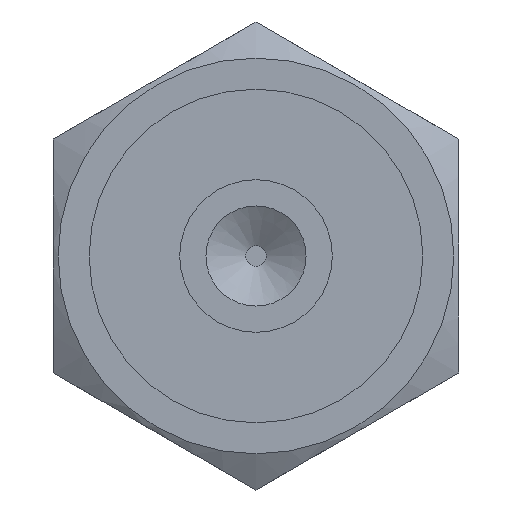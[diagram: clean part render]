
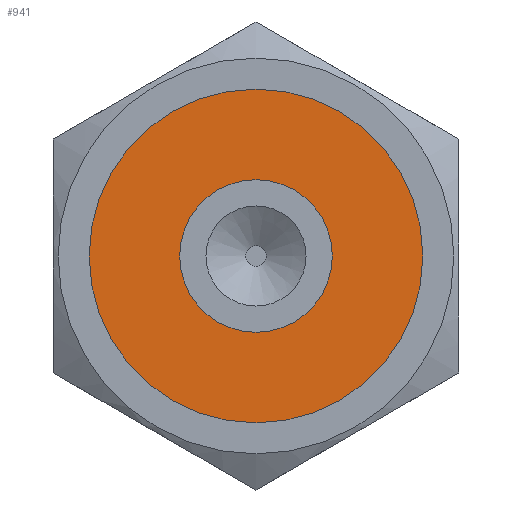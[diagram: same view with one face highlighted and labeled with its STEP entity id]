
A CAD part, front view. The second image highlights one B-rep face of the part: STEP entity #941.
In plain terms, the highlighted planar face has unit normal (0, -1, 0).
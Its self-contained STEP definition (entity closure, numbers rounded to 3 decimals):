
#314=VERTEX_POINT('',#1415);
#330=VERTEX_POINT('',#1488);
#362=CIRCLE('',#1006,3.2);
#366=CIRCLE('',#1021,7.);
#459=EDGE_CURVE('',#314,#314,#362,.T.);
#481=EDGE_CURVE('',#330,#330,#366,.T.);
#704=ORIENTED_EDGE('',*,*,#459,.T.);
#705=ORIENTED_EDGE('',*,*,#481,.F.);
#790=EDGE_LOOP('',(#704));
#791=EDGE_LOOP('',(#705));
#876=FACE_BOUND('',#790,.T.);
#877=FACE_BOUND('',#791,.T.);
#941=ADVANCED_FACE('',(#876,#877),#1532,.T.);
#1006=AXIS2_PLACEMENT_3D('',#1414,#1182,#1183);
#1021=AXIS2_PLACEMENT_3D('',#1487,#1211,#1212);
#1023=AXIS2_PLACEMENT_3D('',#1490,#1214,$);
#1182=DIRECTION('',(0.,1.,0.));
#1183=DIRECTION('',(-3.2,0.,0.));
#1211=DIRECTION('',(0.,1.,0.));
#1212=DIRECTION('',(0.,0.,-7.));
#1214=DIRECTION('',(0.,-1.,0.));
#1414=CARTESIAN_POINT('',(0.,0.,0.));
#1415=CARTESIAN_POINT('',(-3.2,0.,0.));
#1487=CARTESIAN_POINT('',(0.,0.,0.));
#1488=CARTESIAN_POINT('',(0.,0.,-7.));
#1490=CARTESIAN_POINT('',(0.,0.,-3.5));
#1532=PLANE('',#1023);
